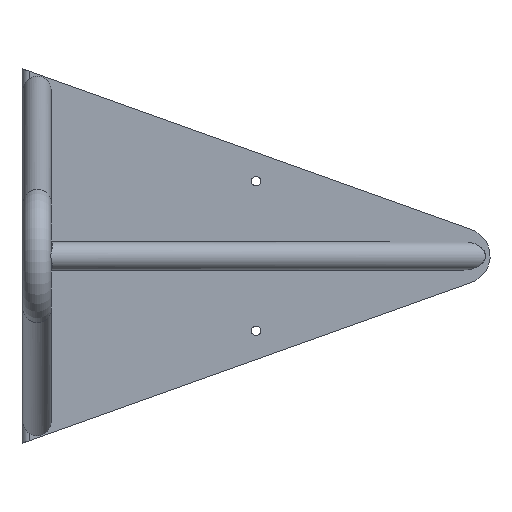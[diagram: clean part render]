
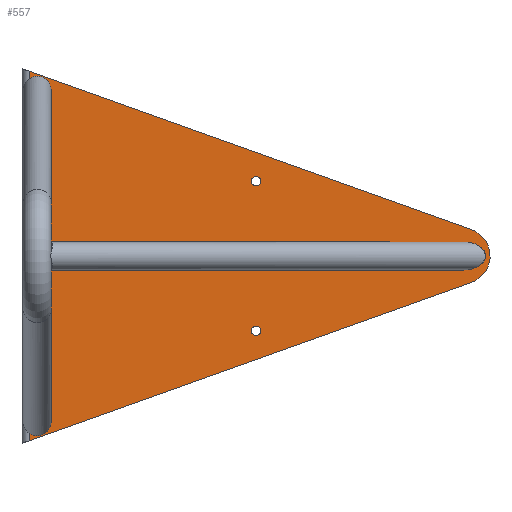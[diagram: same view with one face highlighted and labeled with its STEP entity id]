
A CAD part, front view. The second image highlights one B-rep face of the part: STEP entity #557.
In plain terms, the highlighted planar face has unit normal (0, -1, 0).
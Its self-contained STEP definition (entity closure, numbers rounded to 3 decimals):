
#43=FACE_BOUND('',#127,.T.);
#44=FACE_BOUND('',#128,.T.);
#45=FACE_BOUND('',#129,.T.);
#56=PLANE('',#636);
#87=FACE_OUTER_BOUND('',#126,.T.);
#126=EDGE_LOOP('',(#463,#464,#465,#466));
#127=EDGE_LOOP('',(#467));
#128=EDGE_LOOP('',(#468));
#129=EDGE_LOOP('',(#469));
#157=LINE('',#864,#191);
#165=LINE('',#896,#199);
#172=LINE('',#918,#206);
#191=VECTOR('',#702,10.);
#199=VECTOR('',#732,10.);
#206=VECTOR('',#761,10.);
#219=CIRCLE('',#598,2.);
#222=CIRCLE('',#602,2.);
#225=CIRCLE('',#606,2.);
#233=CIRCLE('',#630,12.);
#242=VERTEX_POINT('',#826);
#245=VERTEX_POINT('',#834);
#248=VERTEX_POINT('',#842);
#256=VERTEX_POINT('',#861);
#257=VERTEX_POINT('',#863);
#269=VERTEX_POINT('',#893);
#270=VERTEX_POINT('',#895);
#295=EDGE_CURVE('',#242,#242,#219,.T.);
#299=EDGE_CURVE('',#245,#245,#222,.T.);
#303=EDGE_CURVE('',#248,#248,#225,.T.);
#312=EDGE_CURVE('',#257,#256,#157,.T.);
#328=EDGE_CURVE('',#270,#269,#165,.T.);
#337=EDGE_CURVE('',#256,#270,#233,.T.);
#340=EDGE_CURVE('',#257,#269,#172,.T.);
#463=ORIENTED_EDGE('',*,*,#328,.T.);
#464=ORIENTED_EDGE('',*,*,#340,.F.);
#465=ORIENTED_EDGE('',*,*,#312,.T.);
#466=ORIENTED_EDGE('',*,*,#337,.T.);
#467=ORIENTED_EDGE('',*,*,#295,.T.);
#468=ORIENTED_EDGE('',*,*,#299,.T.);
#469=ORIENTED_EDGE('',*,*,#303,.T.);
#557=ADVANCED_FACE('',(#87,#43,#44,#45),#56,.T.);
#598=AXIS2_PLACEMENT_3D('',#828,#667,#668);
#602=AXIS2_PLACEMENT_3D('',#836,#676,#677);
#606=AXIS2_PLACEMENT_3D('',#844,#685,#686);
#630=AXIS2_PLACEMENT_3D('',#912,#751,#752);
#636=AXIS2_PLACEMENT_3D('',#922,#767,#768);
#667=DIRECTION('center_axis',(0.,1.,0.));
#668=DIRECTION('ref_axis',(1.,0.,0.));
#676=DIRECTION('center_axis',(0.,1.,0.));
#677=DIRECTION('ref_axis',(1.,0.,0.));
#685=DIRECTION('center_axis',(0.,1.,0.));
#686=DIRECTION('ref_axis',(1.,0.,0.));
#702=DIRECTION('',(0.942,0.,0.337));
#732=DIRECTION('',(-0.942,0.,0.337));
#751=DIRECTION('center_axis',(0.,-1.,0.));
#752=DIRECTION('ref_axis',(-0.337,0.,-0.942));
#761=DIRECTION('',(0.,0.,1.));
#767=DIRECTION('center_axis',(0.,-1.,0.));
#768=DIRECTION('ref_axis',(1.,0.,0.));
#826=CARTESIAN_POINT('',(98.,0.,48.));
#828=CARTESIAN_POINT('Origin',(100.,0.,48.));
#834=CARTESIAN_POINT('',(98.,0.,112.));
#836=CARTESIAN_POINT('Origin',(100.,0.,112.));
#842=CARTESIAN_POINT('',(48.,0.,80.));
#844=CARTESIAN_POINT('Origin',(50.,0.,80.));
#861=CARTESIAN_POINT('',(192.042,0.,68.701));
#863=CARTESIAN_POINT('',(3.,0.,1.073));
#864=CARTESIAN_POINT('',(97.351,0.,34.826));
#893=CARTESIAN_POINT('',(3.,0.,158.927));
#895=CARTESIAN_POINT('',(192.042,0.,91.299));
#896=CARTESIAN_POINT('',(26.702,0.,150.448));
#912=CARTESIAN_POINT('Origin',(188.,0.,80.));
#918=CARTESIAN_POINT('',(3.,0.,0.));
#922=CARTESIAN_POINT('Origin',(3.,0.,0.));
